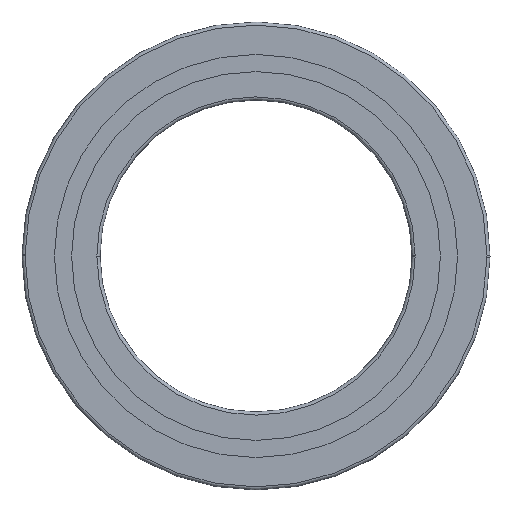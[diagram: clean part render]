
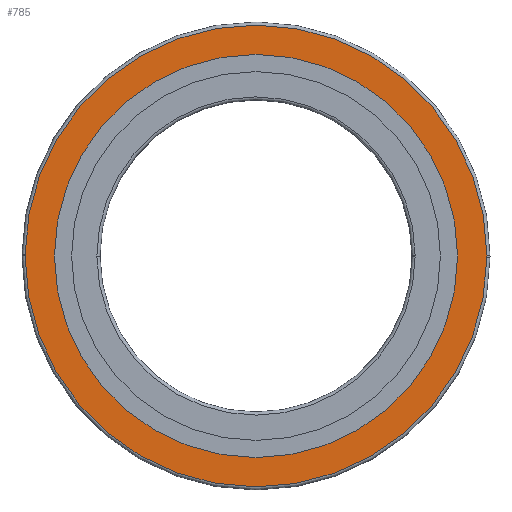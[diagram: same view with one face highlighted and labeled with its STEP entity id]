
A CAD part, front view. The second image highlights one B-rep face of the part: STEP entity #785.
In plain terms, the highlighted planar face has unit normal (0, -1, 0).
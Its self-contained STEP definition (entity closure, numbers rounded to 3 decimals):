
#323=VERTEX_POINT('',#861);
#357=VERTEX_POINT('',#899);
#401=VERTEX_POINT('',#951);
#407=EDGE_CURVE('',#323,#765,#957,.T.);
#469=EDGE_CURVE('',#589,#357,#1024,.T.);
#533=VERTEX_POINT('',#1092);
#579=EDGE_CURVE('',#401,#589,#1143,.T.);
#589=VERTEX_POINT('',#1155);
#697=EDGE_CURVE('',#357,#533,#1278,.T.);
#723=EDGE_CURVE('',#533,#401,#1308,.T.);
#765=VERTEX_POINT('',#1356);
#777=EDGE_CURVE('',#765,#323,#1368,.T.);
#785=ADVANCED_FACE('',(#1379,#1380),#1381,.F.);
#861=CARTESIAN_POINT('',(64.6,0.0,0.0));
#899=CARTESIAN_POINT('',(74.0,0.0,0.0));
#951=CARTESIAN_POINT('',(-74.0,0.0,0.0));
#957=CIRCLE('',#1580,64.6);
#1024=CIRCLE('',#1664,74.0);
#1092=CARTESIAN_POINT('',(-73.999,0.0,0.459));
#1143=CIRCLE('',#1813,74.0);
#1155=CARTESIAN_POINT('',(73.999,0.0,-0.459));
#1278=CIRCLE('',#1981,74.0);
#1308=CIRCLE('',#2018,74.0);
#1356=CARTESIAN_POINT('',(-64.6,0.0,0.0));
#1368=CIRCLE('',#2095,64.6);
#1379=FACE_OUTER_BOUND('',#2106,.T.);
#1380=FACE_BOUND('',#2107,.T.);
#1381=PLANE('',#2108);
#1580=AXIS2_PLACEMENT_3D('',#2306,#2307,#2308);
#1664=AXIS2_PLACEMENT_3D('',#2387,#2388,#2389);
#1813=AXIS2_PLACEMENT_3D('',#2529,#2530,#2531);
#1981=AXIS2_PLACEMENT_3D('',#2715,#2716,#2717);
#2018=AXIS2_PLACEMENT_3D('',#2762,#2763,#2764);
#2095=AXIS2_PLACEMENT_3D('',#2837,#2838,#2839);
#2106=EDGE_LOOP('',(#2859,#2860,#2861,#2862));
#2107=EDGE_LOOP('',(#2863,#2864));
#2108=AXIS2_PLACEMENT_3D('',#2865,#2866,#2867);
#2306=CARTESIAN_POINT('',(0.0,0.0,0.0));
#2307=DIRECTION('',(0.0,-1.0,0.0));
#2308=DIRECTION('',(1.0,0.0,0.0));
#2387=CARTESIAN_POINT('',(0.0,0.0,0.0));
#2388=DIRECTION('',(0.0,-1.0,0.0));
#2389=DIRECTION('',(-1.0,0.0,0.0));
#2529=CARTESIAN_POINT('',(0.0,0.0,0.0));
#2530=DIRECTION('',(0.0,-1.0,0.0));
#2531=DIRECTION('',(-1.0,0.0,0.0));
#2715=CARTESIAN_POINT('',(0.0,0.0,0.0));
#2716=DIRECTION('',(0.0,-1.0,0.0));
#2717=DIRECTION('',(1.0,0.0,0.0));
#2762=CARTESIAN_POINT('',(0.0,0.0,0.0));
#2763=DIRECTION('',(0.0,-1.0,0.0));
#2764=DIRECTION('',(1.0,0.0,0.0));
#2837=CARTESIAN_POINT('',(0.0,0.0,0.0));
#2838=DIRECTION('',(0.0,-1.0,0.0));
#2839=DIRECTION('',(-1.0,0.0,0.0));
#2859=ORIENTED_EDGE('',*,*,#697,.T.);
#2860=ORIENTED_EDGE('',*,*,#723,.T.);
#2861=ORIENTED_EDGE('',*,*,#579,.T.);
#2862=ORIENTED_EDGE('',*,*,#469,.T.);
#2863=ORIENTED_EDGE('',*,*,#777,.F.);
#2864=ORIENTED_EDGE('',*,*,#407,.F.);
#2865=CARTESIAN_POINT('',(0.0,0.0,0.0));
#2866=DIRECTION('',(0.0,1.0,0.0));
#2867=DIRECTION('',(1.0,0.0,-0.0));
